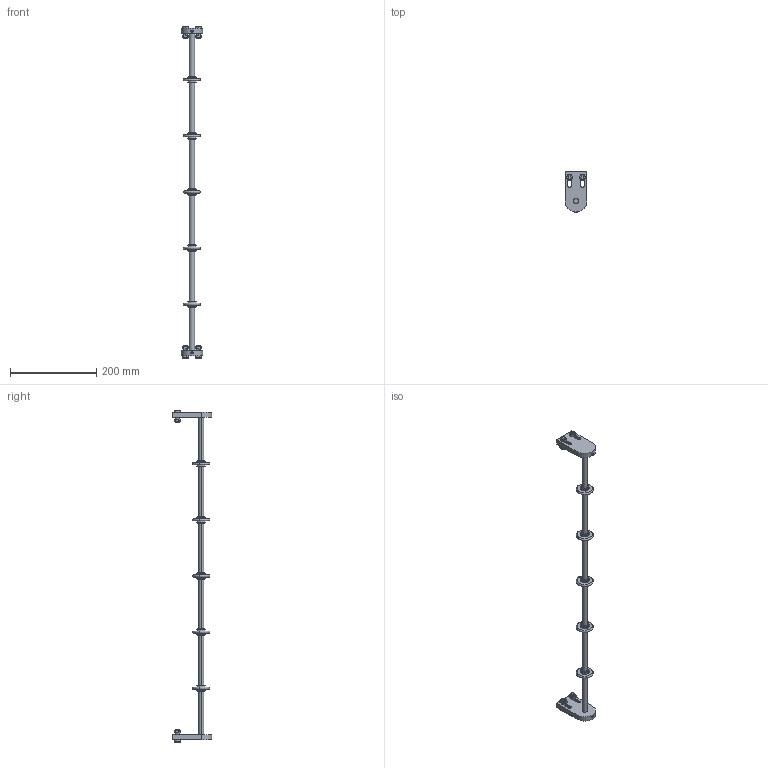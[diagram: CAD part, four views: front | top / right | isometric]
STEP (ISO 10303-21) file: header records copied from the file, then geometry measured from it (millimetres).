
FILE_DESCRIPTION (( 'STEP AP203' ), '1' );
FILE_NAME ('084.095.KSW.700.STEP', '2019-07-30T08:43:47', ( '' ), ( '' ), 'SwSTEP 2.0', 'SolidWorks 2018', '' );
FILE_SCHEMA (( 'CONFIG_CONTROL_DESIGN' ));
Length unit declared in the file: millimetre
Products named in the file (7): 084.802.041; Parte359^084.095.KSW.700; 084.301.000 VITI ALUSIC_084.301.004; 084.802.030; 084.095.KSW.700; 084.302.000 DADI ALUSIC 13x13-1_084.302.004; GRANI A PUNTA PIATTA UNI 5923_M6x16 UNI 5923
Assembly tree (18 placements, depth 2):
  084.095.KSW.700
    Parte359^084.095.KSW.700
    084.802.041  x5
    084.802.030  x2
    GRANI A PUNTA PIATTA UNI 5923_M6x16 UNI 5923  x2
    084.301.000 VITI ALUSIC_084.301.004  x4
    084.302.000 DADI ALUSIC 13x13-1_084.302.004  x4
Bounding box: 50 x 92.5 x 769 mm (x, y, z)
Volume: 222717.6 mm3; surface area: 81712.6 mm2
Topology: 18 solids, 18 shells, 320 faces, 734 edges, 472 vertices
Faces by surface type: plane 124, cylinder 94, cone 44, torus 42, bspline 16
Entity records: 4289 total; most frequent: CARTESIAN_POINT 995, DIRECTION 492, ORIENTED_EDGE 440, EDGE_CURVE 220, AXIS2_PLACEMENT_3D 193, VERTEX_POINT 142, EDGE_LOOP 112, VECTOR 106
